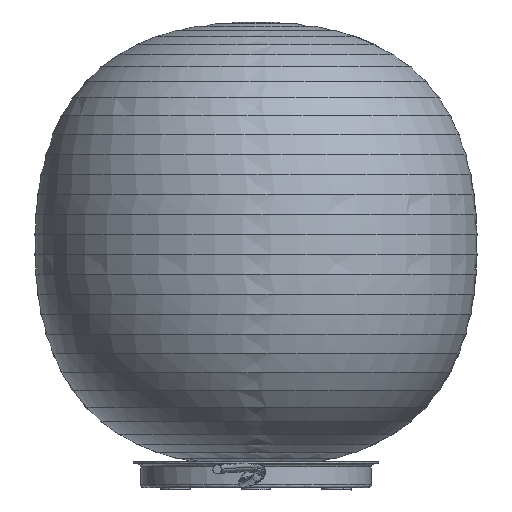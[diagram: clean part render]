
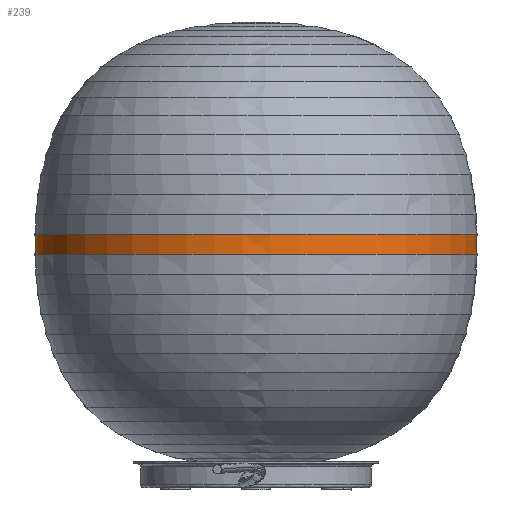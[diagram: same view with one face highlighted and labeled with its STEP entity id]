
A CAD part, front view. The second image highlights one B-rep face of the part: STEP entity #239.
In plain terms, the highlighted free-form (B-spline) face has degree [2, 3] with [9, 7] control points.
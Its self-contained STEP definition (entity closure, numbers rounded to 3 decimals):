
#239=ADVANCED_FACE('',(#603),#4890,.T.);
#603=FACE_OUTER_BOUND('',#963,.T.);
#963=EDGE_LOOP('',(#2005,#2006,#2007,#2008));
#2005=ORIENTED_EDGE('',*,*,#3103,.T.);
#2006=ORIENTED_EDGE('',*,*,#3101,.F.);
#2007=ORIENTED_EDGE('',*,*,#3105,.T.);
#2008=ORIENTED_EDGE('',*,*,#3104,.T.);
#3101=EDGE_CURVE('',#4475,#4474,#3563,.T.);
#3103=EDGE_CURVE('',#4476,#4474,#4012,.T.);
#3104=EDGE_CURVE('',#4477,#4476,#3564,.T.);
#3105=EDGE_CURVE('',#4475,#4477,#4013,.T.);
#3563=(
BOUNDED_CURVE()
B_SPLINE_CURVE(2,(#20554,#20555,#20556,#20557,#20558),.UNSPECIFIED.,.F.,
 .F.)
B_SPLINE_CURVE_WITH_KNOTS((3,2,3),(-467.983,-233.992,
0.),.UNSPECIFIED.)
CURVE()
GEOMETRIC_REPRESENTATION_ITEM()
RATIONAL_B_SPLINE_CURVE((1.,0.707,1.,0.707,1.))
REPRESENTATION_ITEM('')
);
#3564=(
BOUNDED_CURVE()
B_SPLINE_CURVE(2,(#20569,#20570,#20571,#20572,#20573),.UNSPECIFIED.,.F.,
 .F.)
B_SPLINE_CURVE_WITH_KNOTS((3,2,3),(-467.983,-233.992,
0.),.UNSPECIFIED.)
CURVE()
GEOMETRIC_REPRESENTATION_ITEM()
RATIONAL_B_SPLINE_CURVE((1.,0.707,1.,0.707,1.))
REPRESENTATION_ITEM('')
);
#4012=B_SPLINE_CURVE_WITH_KNOTS('',3,(#20564,#20565,#20566,#20567,#20568),
 .UNSPECIFIED.,.F.,.F.,(4,1,4),(-1.,-0.5,0.),
 .UNSPECIFIED.);
#4013=B_SPLINE_CURVE_WITH_KNOTS('',3,(#20574,#20575,#20576,#20577,#20578),
 .UNSPECIFIED.,.F.,.F.,(4,1,4),(-1.,-0.5,0.),
 .UNSPECIFIED.);
#4474=VERTEX_POINT('',#19999);
#4475=VERTEX_POINT('',#20000);
#4476=VERTEX_POINT('',#20001);
#4477=VERTEX_POINT('',#20002);
#4890=(
BOUNDED_SURFACE()
B_SPLINE_SURFACE(2,3,((#17116,#17117,#17118,#17119,#17120,#17121,#17122),
(#17123,#17124,#17125,#17126,#17127,#17128,#17129),(#17130,#17131,#17132,
#17133,#17134,#17135,#17136),(#17137,#17138,#17139,#17140,#17141,#17142,
#17143),(#17144,#17145,#17146,#17147,#17148,#17149,#17150),(#17151,#17152,
#17153,#17154,#17155,#17156,#17157),(#17158,#17159,#17160,#17161,#17162,
#17163,#17164),(#17165,#17166,#17167,#17168,#17169,#17170,#17171),(#17172,
#17173,#17174,#17175,#17176,#17177,#17178)),.UNSPECIFIED.,.T.,.F.,.F.)
B_SPLINE_SURFACE_WITH_KNOTS((3,2,2,2,3),(4,1,1,1,4),(0.,234.126,
468.251,702.377,936.502),(0.,0.312,
7.086,13.861,14.173),.UNSPECIFIED.)
GEOMETRIC_REPRESENTATION_ITEM()
RATIONAL_B_SPLINE_SURFACE(((1.,1.,1.,1.,1.,1.,1.),(0.707,0.707,
0.707,0.707,0.707,0.707,
0.707),(1.,1.,1.,1.,1.,1.,1.),(0.707,0.707,
0.707,0.707,0.707,0.707,
0.707),(1.,1.,1.,1.,1.,1.,1.),(0.707,0.707,
0.707,0.707,0.707,0.707,
0.707),(1.,1.,1.,1.,1.,1.,1.),(0.707,0.707,
0.707,0.707,0.707,0.707,
0.707),(1.,1.,1.,1.,1.,1.,1.)))
REPRESENTATION_ITEM('')
SURFACE()
);
#17116=CARTESIAN_POINT('',(-478.331,200.114,227.252));
#17117=CARTESIAN_POINT('',(-478.331,200.076,227.386));
#17118=CARTESIAN_POINT('',(-478.331,199.209,230.426));
#17119=CARTESIAN_POINT('',(-478.33,198.31,236.636));
#17120=CARTESIAN_POINT('',(-478.33,199.209,242.846));
#17121=CARTESIAN_POINT('',(-478.33,200.075,245.886));
#17122=CARTESIAN_POINT('',(-478.33,200.114,246.019));
#17123=CARTESIAN_POINT('',(-678.445,200.114,227.253));
#17124=CARTESIAN_POINT('',(-678.406,200.076,227.386));
#17125=CARTESIAN_POINT('',(-677.54,199.209,230.427));
#17126=CARTESIAN_POINT('',(-676.64,198.31,236.636));
#17127=CARTESIAN_POINT('',(-677.54,199.209,242.846));
#17128=CARTESIAN_POINT('',(-678.406,200.075,245.886));
#17129=CARTESIAN_POINT('',(-678.445,200.114,246.02));
#17130=CARTESIAN_POINT('',(-678.445,0.,227.253));
#17131=CARTESIAN_POINT('',(-678.406,0.,227.386));
#17132=CARTESIAN_POINT('',(-677.54,0.,230.427));
#17133=CARTESIAN_POINT('',(-676.64,0.,236.636));
#17134=CARTESIAN_POINT('',(-677.54,0.,242.846));
#17135=CARTESIAN_POINT('',(-678.406,0.,245.886));
#17136=CARTESIAN_POINT('',(-678.445,0.,246.02));
#17137=CARTESIAN_POINT('',(-678.445,-200.114,227.253));
#17138=CARTESIAN_POINT('',(-678.406,-200.076,227.386));
#17139=CARTESIAN_POINT('',(-677.54,-199.209,230.427));
#17140=CARTESIAN_POINT('',(-676.64,-198.31,236.636));
#17141=CARTESIAN_POINT('',(-677.54,-199.209,242.846));
#17142=CARTESIAN_POINT('',(-678.406,-200.075,245.886));
#17143=CARTESIAN_POINT('',(-678.445,-200.114,246.02));
#17144=CARTESIAN_POINT('',(-478.331,-200.114,227.252));
#17145=CARTESIAN_POINT('',(-478.331,-200.076,227.386));
#17146=CARTESIAN_POINT('',(-478.331,-199.209,230.426));
#17147=CARTESIAN_POINT('',(-478.33,-198.31,236.636));
#17148=CARTESIAN_POINT('',(-478.33,-199.209,242.846));
#17149=CARTESIAN_POINT('',(-478.33,-200.075,245.886));
#17150=CARTESIAN_POINT('',(-478.33,-200.114,246.019));
#17151=CARTESIAN_POINT('',(-278.216,-200.114,227.252));
#17152=CARTESIAN_POINT('',(-278.255,-200.076,227.385));
#17153=CARTESIAN_POINT('',(-279.121,-199.209,230.426));
#17154=CARTESIAN_POINT('',(-280.021,-198.31,236.636));
#17155=CARTESIAN_POINT('',(-279.121,-199.209,242.845));
#17156=CARTESIAN_POINT('',(-278.255,-200.075,245.885));
#17157=CARTESIAN_POINT('',(-278.216,-200.114,246.019));
#17158=CARTESIAN_POINT('',(-278.216,0.,227.252));
#17159=CARTESIAN_POINT('',(-278.255,0.,227.385));
#17160=CARTESIAN_POINT('',(-279.121,0.,230.426));
#17161=CARTESIAN_POINT('',(-280.021,0.,236.636));
#17162=CARTESIAN_POINT('',(-279.121,0.,242.845));
#17163=CARTESIAN_POINT('',(-278.255,0.,245.885));
#17164=CARTESIAN_POINT('',(-278.216,0.,246.019));
#17165=CARTESIAN_POINT('',(-278.216,200.114,227.252));
#17166=CARTESIAN_POINT('',(-278.255,200.076,227.385));
#17167=CARTESIAN_POINT('',(-279.121,199.209,230.426));
#17168=CARTESIAN_POINT('',(-280.021,198.31,236.636));
#17169=CARTESIAN_POINT('',(-279.121,199.209,242.845));
#17170=CARTESIAN_POINT('',(-278.255,200.075,245.885));
#17171=CARTESIAN_POINT('',(-278.216,200.114,246.019));
#17172=CARTESIAN_POINT('',(-478.331,200.114,227.252));
#17173=CARTESIAN_POINT('',(-478.331,200.076,227.386));
#17174=CARTESIAN_POINT('',(-478.331,199.209,230.426));
#17175=CARTESIAN_POINT('',(-478.33,198.31,236.636));
#17176=CARTESIAN_POINT('',(-478.33,199.209,242.846));
#17177=CARTESIAN_POINT('',(-478.33,200.075,245.886));
#17178=CARTESIAN_POINT('',(-478.33,200.114,246.019));
#19999=CARTESIAN_POINT('',(-678.331,0.,227.654));
#20000=CARTESIAN_POINT('',(-278.331,0.,227.653));
#20001=CARTESIAN_POINT('',(-678.33,0.,245.618));
#20002=CARTESIAN_POINT('',(-278.33,0.,245.618));
#20554=CARTESIAN_POINT('',(-278.331,0.,227.653));
#20555=CARTESIAN_POINT('',(-278.331,-200.,227.653));
#20556=CARTESIAN_POINT('',(-478.331,-200.,227.654));
#20557=CARTESIAN_POINT('',(-678.331,-200.,227.654));
#20558=CARTESIAN_POINT('',(-678.331,0.,227.654));
#20564=CARTESIAN_POINT('',(-678.33,0.,245.618));
#20565=CARTESIAN_POINT('',(-677.52,0.,242.706));
#20566=CARTESIAN_POINT('',(-676.64,0.,236.636));
#20567=CARTESIAN_POINT('',(-677.52,0.,230.566));
#20568=CARTESIAN_POINT('',(-678.331,0.,227.654));
#20569=CARTESIAN_POINT('',(-278.33,0.,245.618));
#20570=CARTESIAN_POINT('',(-278.33,-200.,245.618));
#20571=CARTESIAN_POINT('',(-478.33,-200.,245.618));
#20572=CARTESIAN_POINT('',(-678.33,-200.,245.618));
#20573=CARTESIAN_POINT('',(-678.33,0.,245.618));
#20574=CARTESIAN_POINT('',(-278.331,0.,227.653));
#20575=CARTESIAN_POINT('',(-279.141,0.,230.566));
#20576=CARTESIAN_POINT('',(-280.021,0.,236.636));
#20577=CARTESIAN_POINT('',(-279.141,0.,242.705));
#20578=CARTESIAN_POINT('',(-278.33,0.,245.618));
